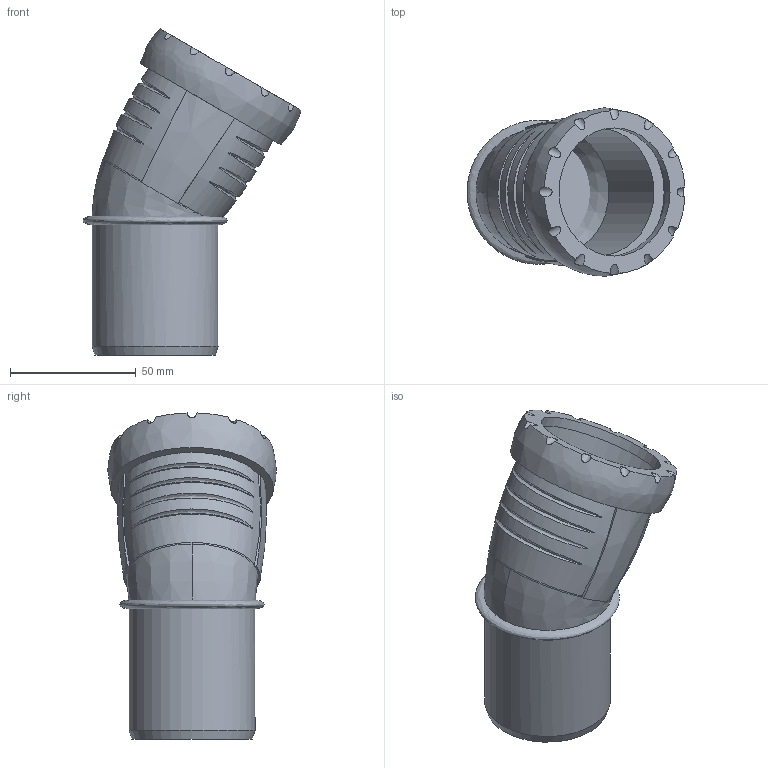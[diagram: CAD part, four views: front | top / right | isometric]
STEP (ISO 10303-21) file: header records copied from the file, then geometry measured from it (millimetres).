
FILE_DESCRIPTION(/* description */ (''),/* implementation_level */ '2;1');
FILE_NAME(/* name */ 'H:\Geberit-Teile\Export\Bogen_TEST\stp\393221.stp',/* time_stamp */ '2017-02-14T10:04:01+01:00',/* author */ ('seihe2'),/* organization */ (''),/* preprocessor_version */ 'ST-DEVELOPER v15.2',/* originating_system */ 'Autodesk Inventor 2014',/* authorisation */ '');
FILE_SCHEMA (('AUTOMOTIVE_DESIGN { 1 0 10303 214 3 1 1 }'));
Length unit declared in the file: millimetre
Products named in the file (1): 393221
Bounding box: 86.73 x 67.08 x 129.78 mm (x, y, z)
Volume: 91550.7 mm3; surface area: 47418.4 mm2
Topology: 2 solids, 2 shells, 55 faces, 136 edges, 96 vertices
Faces by surface type: bspline 27, cylinder 18, plane 8, cone 2
Full cylindrical faces by diameter (mm): 44.15 x1, 50.15 x1, 50.7 x1, 51 x1, 60.1 x1
Entity records: 4173 total; most frequent: CARTESIAN_POINT 2971, ORIENTED_EDGE 258, DIRECTION 176, EDGE_CURVE 128, VERTEX_POINT 95, AXIS2_PLACEMENT_3D 88, EDGE_LOOP 76, B_SPLINE_CURVE_WITH_KNOTS 68
